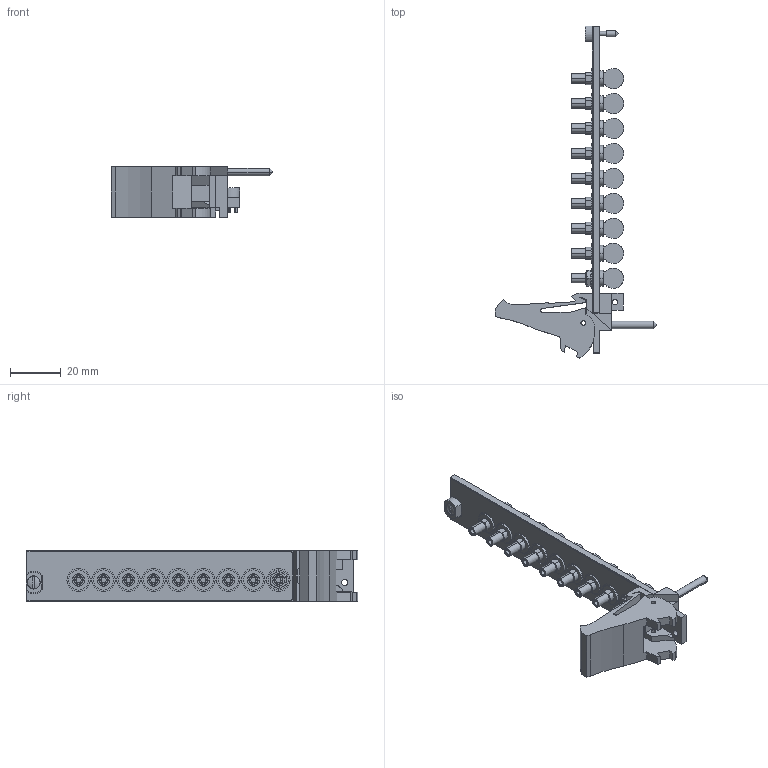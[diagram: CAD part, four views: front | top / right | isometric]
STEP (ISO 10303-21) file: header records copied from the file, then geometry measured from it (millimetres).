
FILE_DESCRIPTION((''),'2;1');
FILE_NAME('CU_PXI_4472','2007-09-12T',('chrisj'),(''),'PRO/ENGINEER BY PARAMETRIC TECHNOLOGY CORPORATION, 2006300','PRO/ENGINEER BY PARAMETRIC TECHNOLOGY CORPORATION, 2006300','');
FILE_SCHEMA(('AUTOMOTIVE_DESIGN_CC2 { 1 2 10303 214 -1 1 5 2 }'));
Length unit declared in the file: inch
Products named in the file (1): CU_PXI_4472
Bounding box: 63.53 x 130.62 x 20.02 mm (x, y, z)
Volume: 18678.9 mm3; surface area: 16952.9 mm2
Topology: 10 solids, 10 shells, 718 faces, 1800 edges, 1182 vertices
Faces by surface type: plane 475, cylinder 233, cone 8, sphere 2
Entity records: 21799 total; most frequent: CARTESIAN_POINT 3930, DIRECTION 3809, ORIENTED_EDGE 3596, EDGE_CURVE 1798, AXIS2_PLACEMENT_3D 1306, VECTOR 1197, LINE 1197, VERTEX_POINT 1182
